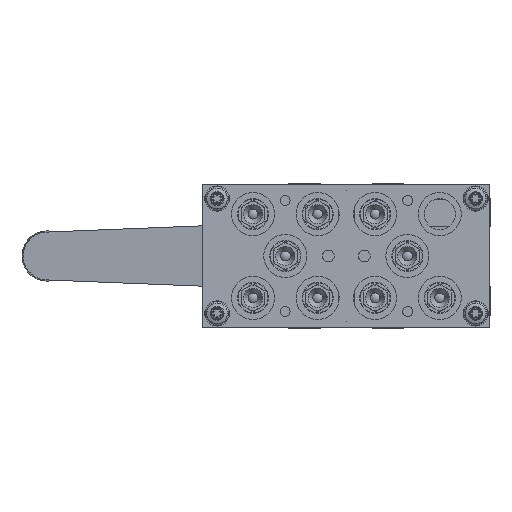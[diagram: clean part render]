
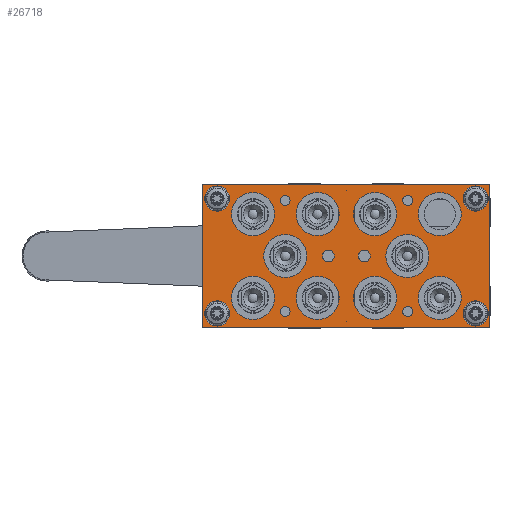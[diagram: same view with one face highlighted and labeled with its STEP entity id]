
A CAD part, left-side view. The second image highlights one B-rep face of the part: STEP entity #26718.
In plain terms, the highlighted planar face has unit normal (-1, 0, 0) as drawn and (0, 0, 1) by its records, which use the part's own axes.
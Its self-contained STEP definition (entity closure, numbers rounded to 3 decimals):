
#2531=LINE('',#63683,#3598);
#2535=LINE('',#63694,#3602);
#2539=LINE('',#63839,#3606);
#2540=LINE('',#63840,#3607);
#3598=VECTOR('',#33116,1000.);
#3602=VECTOR('',#33124,1000.);
#3606=VECTOR('',#33284,1000.);
#3607=VECTOR('',#33285,1000.);
#4044=PLANE('',#28625);
#9192=ORIENTED_EDGE('',*,*,#12032,.F.);
#9193=ORIENTED_EDGE('',*,*,#12033,.F.);
#9194=ORIENTED_EDGE('',*,*,#12034,.F.);
#9195=ORIENTED_EDGE('',*,*,#12035,.F.);
#9196=ORIENTED_EDGE('',*,*,#12036,.F.);
#9197=ORIENTED_EDGE('',*,*,#12037,.F.);
#9198=ORIENTED_EDGE('',*,*,#12038,.T.);
#9199=ORIENTED_EDGE('',*,*,#12039,.T.);
#9200=ORIENTED_EDGE('',*,*,#12040,.T.);
#9201=ORIENTED_EDGE('',*,*,#12041,.T.);
#9202=ORIENTED_EDGE('',*,*,#12042,.T.);
#9203=ORIENTED_EDGE('',*,*,#12043,.T.);
#9204=ORIENTED_EDGE('',*,*,#12044,.T.);
#9205=ORIENTED_EDGE('',*,*,#11974,.T.);
#9206=ORIENTED_EDGE('',*,*,#12045,.T.);
#9207=ORIENTED_EDGE('',*,*,#11979,.T.);
#9208=ORIENTED_EDGE('',*,*,#12046,.T.);
#9209=ORIENTED_EDGE('',*,*,#12047,.T.);
#9210=ORIENTED_EDGE('',*,*,#12048,.T.);
#9211=ORIENTED_EDGE('',*,*,#12049,.T.);
#9212=ORIENTED_EDGE('',*,*,#12050,.T.);
#9213=ORIENTED_EDGE('',*,*,#12051,.T.);
#9214=ORIENTED_EDGE('',*,*,#12052,.T.);
#9215=ORIENTED_EDGE('',*,*,#12053,.T.);
#11974=EDGE_CURVE('',#13712,#13711,#2531,.T.);
#11979=EDGE_CURVE('',#13717,#13716,#2535,.T.);
#12032=EDGE_CURVE('',#13767,#13767,#14620,.T.);
#12033=EDGE_CURVE('',#13768,#13768,#14621,.T.);
#12034=EDGE_CURVE('',#13769,#13769,#14622,.T.);
#12035=EDGE_CURVE('',#13770,#13770,#14623,.T.);
#12036=EDGE_CURVE('',#13771,#13771,#14624,.T.);
#12037=EDGE_CURVE('',#13772,#13772,#14625,.T.);
#12038=EDGE_CURVE('',#13773,#13773,#14626,.T.);
#12039=EDGE_CURVE('',#13774,#13774,#14627,.T.);
#12040=EDGE_CURVE('',#13775,#13775,#14628,.T.);
#12041=EDGE_CURVE('',#13776,#13776,#14629,.T.);
#12042=EDGE_CURVE('',#13777,#13777,#14630,.T.);
#12043=EDGE_CURVE('',#13778,#13778,#14631,.T.);
#12044=EDGE_CURVE('',#13779,#13779,#14632,.T.);
#12045=EDGE_CURVE('',#13711,#13717,#2539,.T.);
#12046=EDGE_CURVE('',#13716,#13712,#2540,.T.);
#12047=EDGE_CURVE('',#13780,#13780,#14633,.T.);
#12048=EDGE_CURVE('',#13781,#13781,#14634,.T.);
#12049=EDGE_CURVE('',#13782,#13782,#14635,.T.);
#12050=EDGE_CURVE('',#13783,#13783,#14636,.T.);
#12051=EDGE_CURVE('',#13784,#13784,#14637,.T.);
#12052=EDGE_CURVE('',#13785,#13785,#14638,.T.);
#12053=EDGE_CURVE('',#13786,#13786,#14639,.T.);
#13711=VERTEX_POINT('',#63682);
#13712=VERTEX_POINT('',#63684);
#13716=VERTEX_POINT('',#63693);
#13717=VERTEX_POINT('',#63695);
#13767=VERTEX_POINT('',#63814);
#13768=VERTEX_POINT('',#63816);
#13769=VERTEX_POINT('',#63818);
#13770=VERTEX_POINT('',#63820);
#13771=VERTEX_POINT('',#63822);
#13772=VERTEX_POINT('',#63824);
#13773=VERTEX_POINT('',#63826);
#13774=VERTEX_POINT('',#63828);
#13775=VERTEX_POINT('',#63830);
#13776=VERTEX_POINT('',#63832);
#13777=VERTEX_POINT('',#63834);
#13778=VERTEX_POINT('',#63836);
#13779=VERTEX_POINT('',#63838);
#13780=VERTEX_POINT('',#63842);
#13781=VERTEX_POINT('',#63844);
#13782=VERTEX_POINT('',#63846);
#13783=VERTEX_POINT('',#63848);
#13784=VERTEX_POINT('',#63850);
#13785=VERTEX_POINT('',#63852);
#13786=VERTEX_POINT('',#63854);
#14620=CIRCLE('',#28626,2.067);
#14621=CIRCLE('',#28627,2.067);
#14622=CIRCLE('',#28628,2.067);
#14623=CIRCLE('',#28629,2.067);
#14624=CIRCLE('',#28630,2.459);
#14625=CIRCLE('',#28631,2.459);
#14626=CIRCLE('',#28632,9.);
#14627=CIRCLE('',#28633,9.);
#14628=CIRCLE('',#28634,9.);
#14629=CIRCLE('',#28635,9.);
#14630=CIRCLE('',#28636,9.);
#14631=CIRCLE('',#28637,5.25);
#14632=CIRCLE('',#28638,5.25);
#14633=CIRCLE('',#28639,5.25);
#14634=CIRCLE('',#28640,9.);
#14635=CIRCLE('',#28641,9.);
#14636=CIRCLE('',#28642,9.);
#14637=CIRCLE('',#28643,9.);
#14638=CIRCLE('',#28644,9.);
#14639=CIRCLE('',#28645,5.25);
#16043=EDGE_LOOP('',(#9192));
#16044=EDGE_LOOP('',(#9193));
#16045=EDGE_LOOP('',(#9194));
#16046=EDGE_LOOP('',(#9195));
#16047=EDGE_LOOP('',(#9196));
#16048=EDGE_LOOP('',(#9197));
#16049=EDGE_LOOP('',(#9198));
#16050=EDGE_LOOP('',(#9199));
#16051=EDGE_LOOP('',(#9200));
#16052=EDGE_LOOP('',(#9201));
#16053=EDGE_LOOP('',(#9202));
#16054=EDGE_LOOP('',(#9203));
#16055=EDGE_LOOP('',(#9204));
#16056=EDGE_LOOP('',(#9205,#9206,#9207,#9208));
#16057=EDGE_LOOP('',(#9209));
#16058=EDGE_LOOP('',(#9210));
#16059=EDGE_LOOP('',(#9211));
#16060=EDGE_LOOP('',(#9212));
#16061=EDGE_LOOP('',(#9213));
#16062=EDGE_LOOP('',(#9214));
#16063=EDGE_LOOP('',(#9215));
#17584=FACE_BOUND('',#16043,.T.);
#17585=FACE_BOUND('',#16044,.T.);
#17586=FACE_BOUND('',#16045,.T.);
#17587=FACE_BOUND('',#16046,.T.);
#17588=FACE_BOUND('',#16047,.T.);
#17589=FACE_BOUND('',#16048,.T.);
#17590=FACE_BOUND('',#16049,.T.);
#17591=FACE_BOUND('',#16050,.T.);
#17592=FACE_BOUND('',#16051,.T.);
#17593=FACE_BOUND('',#16052,.T.);
#17594=FACE_BOUND('',#16053,.T.);
#17595=FACE_BOUND('',#16054,.T.);
#17596=FACE_BOUND('',#16055,.T.);
#17597=FACE_BOUND('',#16056,.T.);
#17598=FACE_BOUND('',#16057,.T.);
#17599=FACE_BOUND('',#16058,.T.);
#17600=FACE_BOUND('',#16059,.T.);
#17601=FACE_BOUND('',#16060,.T.);
#17602=FACE_BOUND('',#16061,.T.);
#17603=FACE_BOUND('',#16062,.T.);
#17604=FACE_BOUND('',#16063,.T.);
#26718=ADVANCED_FACE('',(#17584,#17585,#17586,#17587,#17588,#17589,#17590,
#17591,#17592,#17593,#17594,#17595,#17596,#17597,#17598,#17599,#17600,#17601,
#17602,#17603,#17604),#4044,.T.);
#28625=AXIS2_PLACEMENT_3D('',#63812,#33256,#33257);
#28626=AXIS2_PLACEMENT_3D('',#63813,#33258,#33259);
#28627=AXIS2_PLACEMENT_3D('',#63815,#33260,#33261);
#28628=AXIS2_PLACEMENT_3D('',#63817,#33262,#33263);
#28629=AXIS2_PLACEMENT_3D('',#63819,#33264,#33265);
#28630=AXIS2_PLACEMENT_3D('',#63821,#33266,#33267);
#28631=AXIS2_PLACEMENT_3D('',#63823,#33268,#33269);
#28632=AXIS2_PLACEMENT_3D('',#63825,#33270,#33271);
#28633=AXIS2_PLACEMENT_3D('',#63827,#33272,#33273);
#28634=AXIS2_PLACEMENT_3D('',#63829,#33274,#33275);
#28635=AXIS2_PLACEMENT_3D('',#63831,#33276,#33277);
#28636=AXIS2_PLACEMENT_3D('',#63833,#33278,#33279);
#28637=AXIS2_PLACEMENT_3D('',#63835,#33280,#33281);
#28638=AXIS2_PLACEMENT_3D('',#63837,#33282,#33283);
#28639=AXIS2_PLACEMENT_3D('',#63841,#33286,#33287);
#28640=AXIS2_PLACEMENT_3D('',#63843,#33288,#33289);
#28641=AXIS2_PLACEMENT_3D('',#63845,#33290,#33291);
#28642=AXIS2_PLACEMENT_3D('',#63847,#33292,#33293);
#28643=AXIS2_PLACEMENT_3D('',#63849,#33294,#33295);
#28644=AXIS2_PLACEMENT_3D('',#63851,#33296,#33297);
#28645=AXIS2_PLACEMENT_3D('',#63853,#33298,#33299);
#33116=DIRECTION('',(-1.,0.,0.));
#33124=DIRECTION('',(1.,0.,0.));
#33256=DIRECTION('',(0.,0.,1.));
#33257=DIRECTION('',(1.,0.,0.));
#33258=DIRECTION('',(0.,0.,1.));
#33259=DIRECTION('',(1.,0.,0.));
#33260=DIRECTION('',(0.,0.,1.));
#33261=DIRECTION('',(1.,0.,0.));
#33262=DIRECTION('',(0.,0.,1.));
#33263=DIRECTION('',(1.,0.,0.));
#33264=DIRECTION('',(0.,0.,1.));
#33265=DIRECTION('',(1.,0.,0.));
#33266=DIRECTION('',(0.,0.,1.));
#33267=DIRECTION('',(1.,0.,0.));
#33268=DIRECTION('',(0.,0.,1.));
#33269=DIRECTION('',(1.,0.,0.));
#33270=DIRECTION('',(0.,0.,-1.));
#33271=DIRECTION('',(1.,0.,0.));
#33272=DIRECTION('',(0.,0.,-1.));
#33273=DIRECTION('',(1.,0.,0.));
#33274=DIRECTION('',(0.,0.,-1.));
#33275=DIRECTION('',(1.,0.,0.));
#33276=DIRECTION('',(0.,0.,-1.));
#33277=DIRECTION('',(1.,0.,0.));
#33278=DIRECTION('',(0.,0.,-1.));
#33279=DIRECTION('',(1.,0.,0.));
#33280=DIRECTION('',(0.,0.,-1.));
#33281=DIRECTION('',(1.,0.,0.));
#33282=DIRECTION('',(0.,0.,-1.));
#33283=DIRECTION('',(1.,0.,0.));
#33284=DIRECTION('',(0.,-1.,0.));
#33285=DIRECTION('',(0.,1.,0.));
#33286=DIRECTION('',(0.,0.,-1.));
#33287=DIRECTION('',(1.,0.,0.));
#33288=DIRECTION('',(0.,0.,-1.));
#33289=DIRECTION('',(1.,0.,0.));
#33290=DIRECTION('',(0.,0.,-1.));
#33291=DIRECTION('',(1.,0.,0.));
#33292=DIRECTION('',(0.,0.,-1.));
#33293=DIRECTION('',(1.,0.,0.));
#33294=DIRECTION('',(0.,0.,-1.));
#33295=DIRECTION('',(1.,0.,0.));
#33296=DIRECTION('',(0.,0.,-1.));
#33297=DIRECTION('',(1.,0.,0.));
#33298=DIRECTION('',(0.,0.,-1.));
#33299=DIRECTION('',(1.,0.,0.));
#63682=CARTESIAN_POINT('',(-60.,30.,15.));
#63683=CARTESIAN_POINT('',(60.,30.,15.));
#63684=CARTESIAN_POINT('',(60.,30.,15.));
#63693=CARTESIAN_POINT('',(60.,-30.,15.));
#63694=CARTESIAN_POINT('',(-60.,-30.,15.));
#63695=CARTESIAN_POINT('',(-60.,-30.,15.));
#63812=CARTESIAN_POINT('',(-60.,30.,15.));
#63813=CARTESIAN_POINT('',(25.6,23.2,15.));
#63814=CARTESIAN_POINT('',(27.667,23.2,15.));
#63815=CARTESIAN_POINT('',(-25.6,23.2,15.));
#63816=CARTESIAN_POINT('',(-23.533,23.2,15.));
#63817=CARTESIAN_POINT('',(-25.6,-23.2,15.));
#63818=CARTESIAN_POINT('',(-23.533,-23.2,15.));
#63819=CARTESIAN_POINT('',(25.6,-23.2,15.));
#63820=CARTESIAN_POINT('',(27.667,-23.2,15.));
#63821=CARTESIAN_POINT('',(7.5,0.,15.));
#63822=CARTESIAN_POINT('',(9.959,0.,15.));
#63823=CARTESIAN_POINT('',(-7.5,0.,15.));
#63824=CARTESIAN_POINT('',(-5.041,0.,15.));
#63825=CARTESIAN_POINT('',(25.5,0.,15.));
#63826=CARTESIAN_POINT('',(34.5,0.,15.));
#63827=CARTESIAN_POINT('',(39.,17.5,15.));
#63828=CARTESIAN_POINT('',(48.,17.5,15.));
#63829=CARTESIAN_POINT('',(-39.,-17.5,15.));
#63830=CARTESIAN_POINT('',(-30.,-17.5,15.));
#63831=CARTESIAN_POINT('',(-12.,-17.5,15.));
#63832=CARTESIAN_POINT('',(-3.,-17.5,15.));
#63833=CARTESIAN_POINT('',(12.,17.5,15.));
#63834=CARTESIAN_POINT('',(21.,17.5,15.));
#63835=CARTESIAN_POINT('',(-54.,-24.,15.));
#63836=CARTESIAN_POINT('',(-48.75,-24.,15.));
#63837=CARTESIAN_POINT('',(54.,24.,15.));
#63838=CARTESIAN_POINT('',(59.25,24.,15.));
#63839=CARTESIAN_POINT('',(-60.,30.,15.));
#63840=CARTESIAN_POINT('',(60.,-30.,15.));
#63841=CARTESIAN_POINT('',(54.,-24.,15.));
#63842=CARTESIAN_POINT('',(59.25,-24.,15.));
#63843=CARTESIAN_POINT('',(-12.,17.5,15.));
#63844=CARTESIAN_POINT('',(-3.,17.5,15.));
#63845=CARTESIAN_POINT('',(12.,-17.5,15.));
#63846=CARTESIAN_POINT('',(21.,-17.5,15.));
#63847=CARTESIAN_POINT('',(-39.,17.5,15.));
#63848=CARTESIAN_POINT('',(-30.,17.5,15.));
#63849=CARTESIAN_POINT('',(39.,-17.5,15.));
#63850=CARTESIAN_POINT('',(48.,-17.5,15.));
#63851=CARTESIAN_POINT('',(-25.5,0.,15.));
#63852=CARTESIAN_POINT('',(-16.5,0.,15.));
#63853=CARTESIAN_POINT('',(-54.,24.,15.));
#63854=CARTESIAN_POINT('',(-48.75,24.,15.));
